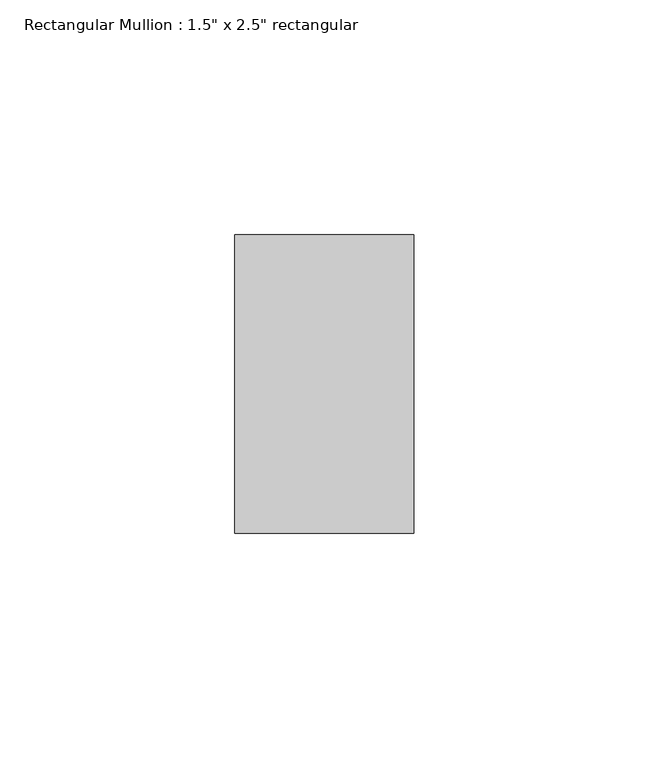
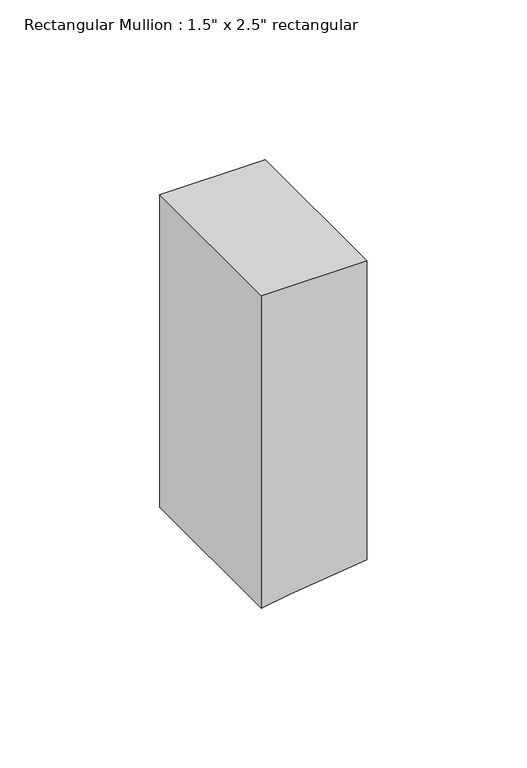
"""IFC4 building model written with IfcOpenShell, lengths in millimetres: member geometry."""

from ifc_helpers import new_model, si_unit, frame, origin, place, context, project, spatial, polyline, outline, extrude, source, transform, mapped, element, save


def member_5cb85f76(model_context):
    return source(origin(), model_context, "Body", "SweptSolid", [
        extrude(outline(polyline([(0.0, 19.05), (0.0, -19.05), (-119.2439183, -19.05), (-117.6305932, -9.1020957), (-114.0401693, 19.05), (0.0, 19.05)])), frame((0.0, -31.75, 0.0), z_axis=(0.0, 1.0, 0.0), x_axis=(0.0, 0.0, 1.0)), (0.0, 0.0, 1.0), 63.5),
    ])


if __name__ == "__main__":
    model = new_model("IFC4")
    model_context = context("Model", 3, world=origin())
    ifc_project = project(units=[si_unit("LENGTHUNIT", "METRE", prefix="MILLI")], contexts=[model_context])
    site = spatial("IfcSite", under=ifc_project)
    building = spatial("IfcBuilding", under=site)
    placement = place(None, origin())
    member_shape = member_5cb85f76(model_context)
    element("IfcMember", 1, ObjectType="Rectangular Mullion : 1.5\" x 2.5\" rectangular", at=placement, inside=building, context=model_context, shape_type="MappedRepresentation", body=[
        mapped(member_shape, transform((0.0, 0.0, 0.0), x_axis=(1.0, 0.0, 0.0), y_axis=(0.0, 1.0, 0.0), z_axis=(0.0, 0.0, 1.0))),
    ])
    save(model, "model.ifc")
